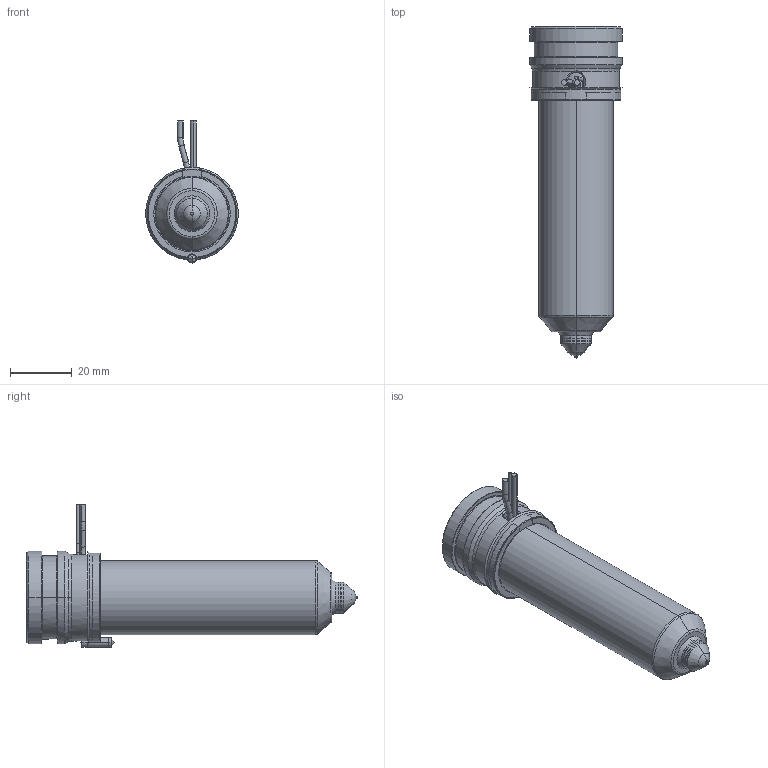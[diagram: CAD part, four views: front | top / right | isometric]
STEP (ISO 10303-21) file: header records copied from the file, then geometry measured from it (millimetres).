
FILE_DESCRIPTION((''),'2;1');
FILE_NAME('MPN-10-29-VX10-086-A','2026-02-05T12:40:35',('UPTIO'),('Thermoplay S.p.A.'),'CREO PARAMETRIC BY PTC INC, 2023494','CREO PARAMETRIC BY PTC INC, 2023494','');
FILE_SCHEMA(('CONFIG_CONTROL_DESIGN','SHAPE_APPEARANCE_LAYERS_GROUPS'));
Length unit declared in the file: millimetre
Products named in the file (1): MPN-10-29-VX10-086-A
Bounding box: 30 x 107.5 x 46 mm (x, y, z)
Volume: 33899.7 mm3; surface area: 33830.2 mm2
Topology: 2 solids, 3 shells, 557 faces, 1459 edges, 901 vertices
Faces by surface type: cylinder 182, plane 144, bspline 76, torus 72, cone 70, sphere 9, extrusion 4
Entity records: 28337 total; most frequent: CARTESIAN_POINT 11830, ORIENTED_EDGE 2906, DIRECTION 2711, EDGE_CURVE 1453, AXIS2_PLACEMENT_3D 1078, VERTEX_POINT 901, CIRCLE 600, EDGE_LOOP 586
